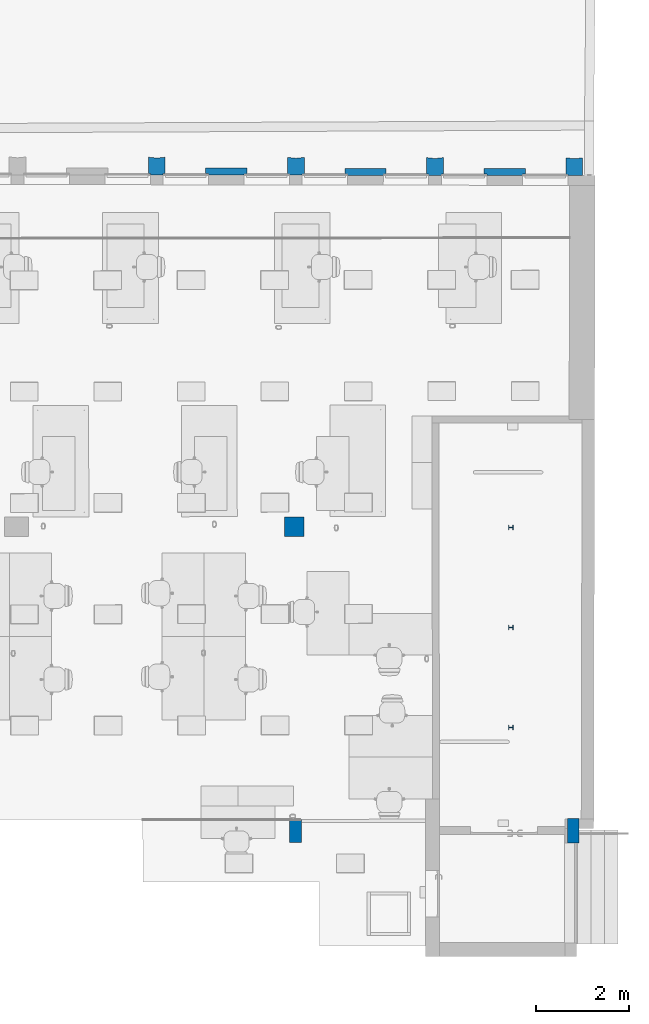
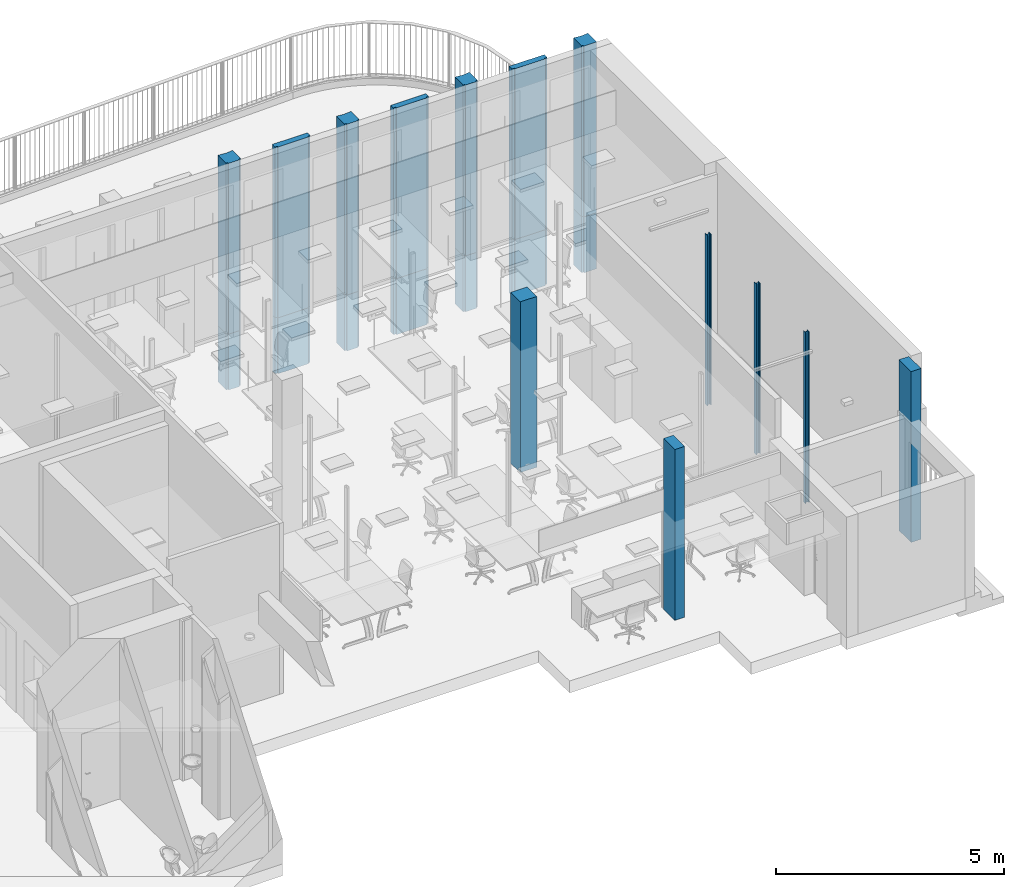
# One storey, part 4 of 128: 20 columns.
"""IFC2X3 building model written with IfcOpenShell, lengths in metres."""

from ifc_helpers import new_model, entity, si_unit, converted_unit, derived_unit, direction, frame, frame_2d, origin, place, context, subcontext, project, spatial, polyline, rectangle, i_section, outline, extrude, source, transform, mapped, material, type_object, type_shapes, element, save


model = new_model("IFC2X3")

# Units and contexts
model_context = context("Model", 3, precision=1e-05, world=origin(), true_north=direction((6.123031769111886e-17, 1.0)))
body_context = subcontext(model_context, "Body", "Model", "MODEL_VIEW")
ifc_project = project(units=[si_unit("LENGTHUNIT", "METRE"), si_unit("AREAUNIT", "SQUARE_METRE"), converted_unit("PLANEANGLEUNIT", "DEGREE", entity("IfcPlaneAngleMeasure", 0.017453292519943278), si_unit("PLANEANGLEUNIT", "RADIAN"), dimensions=[0, 0, 0, 0, 0, 0, 0]), derived_unit("THERMALTRANSMITTANCEUNIT", [(si_unit("MASSUNIT", "GRAM", prefix="KILO"), 1), (si_unit("THERMODYNAMICTEMPERATUREUNIT", "KELVIN"), -1), (si_unit("TIMEUNIT", "SECOND"), -3)])], contexts=[model_context])

# Site, building, storey
site_placement = place(None, origin())
site = spatial("IfcSite", under=ifc_project, at=site_placement, Name="Default", CompositionType="ELEMENT")
building_placement = place(site_placement, origin())
building = spatial("IfcBuilding", under=site, at=building_placement, CompositionType="ELEMENT")
storey_placement = place(building_placement, origin())
storey = spatial("IfcBuildingStorey", under=building, at=storey_placement, Name="00_RDC CAF", CompositionType="ELEMENT", Elevation=2.4982504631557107e-13)

# Columns
ifc_material_1 = material(Name="STR - Beton")
column_type_1 = type_object("IfcColumnType", Name="Po_Béton_Creusé _Bord:365mm x 385mm", PredefinedType="COLUMN", material=ifc_material_1)
shared_shape_1 = source(origin(), body_context, "Body", "SweptSolid", [
    extrude(outline(polyline([(-0.2435821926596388, 0.18887469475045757), (-0.20164150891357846, -0.19383404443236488), (0.11565882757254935, -0.15906140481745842), (0.11239072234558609, -0.1292399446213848), (0.15791815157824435, -0.12425063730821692), (0.11924557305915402, 0.22863664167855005), (-0.059989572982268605, 0.18887469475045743), (-0.2435821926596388, 0.18887469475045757)])), frame((48.71044179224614, 144.2732816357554, 0.0), z_axis=(0.0, 0.0, -1.0), x_axis=(-0.9942187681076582, -0.10737337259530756, 0.0)), (0.0, 0.0, -1.0), 4.578000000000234),
])
type_shapes(column_type_1, [shared_shape_1])
column_1_placement = place(storey_placement, origin())
element("IfcColumn", 1, at=column_1_placement, inside=storey, type_object=column_type_1, material=ifc_material_1, Name="Po_Béton_Creusé _Bord:365mm x 385mm", ObjectType="Po_Béton_Creusé _Bord:365mm x 385mm", context=body_context, shape_type="MappedRepresentation", body=[
    mapped(shared_shape_1, transform((0.0, 0.0, 0.0), scale=1.0)),
])
column_type_2 = type_object("IfcColumnType", Name="Po_Béton_Creusé_Courant:365mm x 385mm", PredefinedType="COLUMN", material=ifc_material_1)
shared_shape_2 = source(origin(), body_context, "Body", "SweptSolid", [
    extrude(outline(polyline([(-0.1824999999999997, 0.10944444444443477), (-0.1825000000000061, -0.24555555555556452), (0.0, -0.22555555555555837), (0.18249999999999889, -0.24555555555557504), (0.18249999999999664, 0.10944444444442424), (0.13669999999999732, 0.10944444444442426), (0.13670000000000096, 0.1394444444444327), (-0.13669999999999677, 0.13944444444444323), (-0.13670000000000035, 0.10944444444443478), (-0.1824999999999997, 0.10944444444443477)])), frame((45.74945634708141, 144.24666848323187, 0.0), z_axis=(0.0, 0.0, -1.0), x_axis=(0.9999987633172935, -0.0015726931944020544, 0.0)), (0.0, 0.0, -1.0), 4.578000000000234),
])
type_shapes(column_type_2, [shared_shape_2])
column_2_placement = place(storey_placement, origin())
element("IfcColumn", 2, at=column_2_placement, inside=storey, type_object=column_type_2, material=ifc_material_1, Name="Po_Béton_Creusé_Courant:365mm x 385mm", ObjectType="Po_Béton_Creusé_Courant:365mm x 385mm", context=body_context, shape_type="MappedRepresentation", body=[
    mapped(shared_shape_2, transform((0.0, 0.0, 0.0), scale=1.0)),
])
column_type_3 = type_object("IfcColumnType", Name="Po_Béton_Creusé_Courant:365mm x 385mm", PredefinedType="COLUMN", material=ifc_material_1)
shared_shape_3 = source(origin(), body_context, "Body", "SweptSolid", [
    extrude(outline(polyline([(-0.1824999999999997, 0.10944444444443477), (-0.1825000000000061, -0.24555555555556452), (0.0, -0.22555555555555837), (0.18249999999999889, -0.24555555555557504), (0.18249999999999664, 0.10944444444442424), (0.13669999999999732, 0.10944444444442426), (0.13670000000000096, 0.1394444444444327), (-0.13669999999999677, 0.13944444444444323), (-0.13670000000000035, 0.10944444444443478), (-0.1824999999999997, 0.10944444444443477)])), frame((42.74946298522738, 144.25138655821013, 0.0), z_axis=(0.0, 0.0, -1.0), x_axis=(0.9999987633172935, -0.0015726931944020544, 0.0)), (0.0, 0.0, -1.0), 4.578000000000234),
])
type_shapes(column_type_3, [shared_shape_3])
column_3_placement = place(storey_placement, origin())
element("IfcColumn", 3, at=column_3_placement, inside=storey, type_object=column_type_3, material=ifc_material_1, Name="Po_Béton_Creusé_Courant:365mm x 385mm", ObjectType="Po_Béton_Creusé_Courant:365mm x 385mm", context=body_context, shape_type="MappedRepresentation", body=[
    mapped(shared_shape_3, transform((0.0, 0.0, 0.0), scale=1.0)),
])
column_type_4 = type_object("IfcColumnType", Name="Po_Béton_Creusé_Courant:365mm x 385mm", PredefinedType="COLUMN", material=ifc_material_1)
shared_shape_4 = source(origin(), body_context, "Body", "SweptSolid", [
    extrude(outline(polyline([(-0.18249999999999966, 0.10944444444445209), (-0.18250000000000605, -0.2455555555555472), (0.0, -0.22555555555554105), (0.1824999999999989, -0.24555555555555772), (0.1824999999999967, 0.10944444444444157), (0.13669999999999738, 0.10944444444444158), (0.13670000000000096, 0.13944444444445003), (-0.1366999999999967, 0.13944444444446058), (-0.13670000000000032, 0.1094444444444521), (-0.18249999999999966, 0.10944444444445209)])), frame((39.74946962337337, 144.25610463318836, 0.0), z_axis=(0.0, 0.0, -1.0), x_axis=(0.9999987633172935, -0.0015726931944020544, 0.0)), (0.0, 0.0, -1.0), 4.578000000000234),
])
type_shapes(column_type_4, [shared_shape_4])
column_4_placement = place(storey_placement, origin())
element("IfcColumn", 4, at=column_4_placement, inside=storey, type_object=column_type_4, material=ifc_material_1, Name="Po_Béton_Creusé_Courant:365mm x 385mm", ObjectType="Po_Béton_Creusé_Courant:365mm x 385mm", context=body_context, shape_type="MappedRepresentation", body=[
    mapped(shared_shape_4, transform((0.0, 0.0, 0.0), scale=1.0)),
])
ifc_material_2 = material(Name="<Unnamed>")
column_type_5 = type_object("IfcColumnType", Name="Po_Béton_T:365mm x 385mm", PredefinedType="COLUMN", material=ifc_material_2)
shared_shape_5 = source(origin(), body_context, "Body", "SweptSolid", [
    extrude(outline(polyline([(-0.44499999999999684, 0.0225000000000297), (-0.4450000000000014, -0.09749999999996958), (0.4449999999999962, -0.0975000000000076), (0.4450000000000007, 0.022499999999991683), (0.38320000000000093, 0.022499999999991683), (0.38320000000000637, 0.05249999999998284), (-0.3831999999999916, 0.05250000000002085), (-0.383199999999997, 0.0225000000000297), (-0.44499999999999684, 0.0225000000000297)])), frame((41.24920515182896, 144.16680145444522, 0.0), z_axis=(0.0, 0.0, -1.0), x_axis=(0.9999987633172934, -0.001572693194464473, 0.0)), (0.0, 0.0, -1.0), 4.578000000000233),
])
type_shapes(column_type_5, [shared_shape_5])
column_5_placement = place(storey_placement, origin())
element("IfcColumn", 5, at=column_5_placement, inside=storey, type_object=column_type_5, material=ifc_material_2, Name="Po_Béton_T:365mm x 385mm", ObjectType="Po_Béton_T:365mm x 385mm", context=body_context, shape_type="MappedRepresentation", body=[
    mapped(shared_shape_5, transform((0.0, 0.0, 0.0), scale=1.0)),
])
column_type_6 = type_object("IfcColumnType", Name="Po_Béton_T:365mm x 385mm", PredefinedType="COLUMN", material=ifc_material_2)
shared_shape_6 = source(origin(), body_context, "Body", "SweptSolid", [
    extrude(outline(polyline([(-0.4449999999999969, 0.022499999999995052), (-0.44500000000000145, -0.09750000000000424), (0.4449999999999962, -0.09750000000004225), (0.4450000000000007, 0.02249999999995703), (0.3832000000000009, 0.02249999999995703), (0.3832000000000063, 0.052499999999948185), (-0.3831999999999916, 0.0524999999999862), (-0.3831999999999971, 0.022499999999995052), (-0.4449999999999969, 0.022499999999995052)])), frame((44.249198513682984, 144.16208337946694, 0.0), z_axis=(0.0, 0.0, -1.0), x_axis=(0.9999987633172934, -0.001572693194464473, 0.0)), (0.0, 0.0, -1.0), 4.578000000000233),
])
type_shapes(column_type_6, [shared_shape_6])
column_6_placement = place(storey_placement, origin())
element("IfcColumn", 6, at=column_6_placement, inside=storey, type_object=column_type_6, material=ifc_material_2, Name="Po_Béton_T:365mm x 385mm", ObjectType="Po_Béton_T:365mm x 385mm", context=body_context, shape_type="MappedRepresentation", body=[
    mapped(shared_shape_6, transform((0.0, 0.0, 0.0), scale=1.0)),
])
column_type_7 = type_object("IfcColumnType", Name="Po_Béton_T:365mm x 385mm", PredefinedType="COLUMN", material=ifc_material_2)
shared_shape_7 = source(origin(), body_context, "Body", "SweptSolid", [
    extrude(outline(polyline([(-0.44499999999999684, 0.0225000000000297), (-0.4450000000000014, -0.09749999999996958), (0.4449999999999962, -0.0975000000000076), (0.4450000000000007, 0.022499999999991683), (0.38320000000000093, 0.022499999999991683), (0.38320000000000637, 0.05249999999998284), (-0.3831999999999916, 0.05250000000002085), (-0.383199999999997, 0.0225000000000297), (-0.44499999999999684, 0.0225000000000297)])), frame((47.249191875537, 144.15736530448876, 0.0), z_axis=(0.0, 0.0, -1.0), x_axis=(0.9999987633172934, -0.001572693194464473, 0.0)), (0.0, 0.0, -1.0), 4.578000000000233),
])
type_shapes(column_type_7, [shared_shape_7])
column_7_placement = place(storey_placement, origin())
element("IfcColumn", 7, at=column_7_placement, inside=storey, type_object=column_type_7, material=ifc_material_2, Name="Po_Béton_T:365mm x 385mm", ObjectType="Po_Béton_T:365mm x 385mm", context=body_context, shape_type="MappedRepresentation", body=[
    mapped(shared_shape_7, transform((0.0, 0.0, 0.0), scale=1.0)),
])
ifc_material_3 = material(Name="STR - Acier")
column_type_8 = type_object("IfcColumnType", Name="Poteau HE-B:HEB100", PredefinedType="COLUMN", material=ifc_material_3)
shared_shape_8 = source(origin(), body_context, "Body", "SweptSolid", [
    extrude(i_section(OverallWidth=0.1, OverallDepth=0.09999999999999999, WebThickness=0.005999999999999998, FlangeThickness=0.01000000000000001, FilletRadius=0.012, at=frame_2d((0.0, 6.938893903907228e-18), x_axis=(1.0, 0.0))), frame((0.0, 0.0, 0.0), z_axis=(0.0, 0.0, 1.0), x_axis=(-1.0, 0.0, 0.0)), (0.0, 0.0, 1.0), 4.578000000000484),
])
type_shapes(column_type_8, [shared_shape_8])
for number, where, z_axis, x_axis in (
    (8, (47.38209885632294, 136.51848300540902, 0.0), (0.0, 0.0, 1.0), (0.0, 1.0, 0.0)),
    (9, (47.38209885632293, 134.36298300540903, 0.0), (0.0, 0.0, 1.0), (0.0, 1.0, 0.0)),
    (10, (47.38209885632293, 132.20748300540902, 0.0), (0.0, 0.0, 1.0), (0.0, 1.0, 0.0)),
):
    element("IfcColumn", number, at=place(storey_placement, frame(where, z_axis=z_axis, x_axis=x_axis)), inside=storey, type_object=column_type_8, material=ifc_material_3, Name="Poteau HE-B:HEB100", ObjectType="Poteau HE-B:HEB100", context=body_context, shape_type="MappedRepresentation", body=[
        mapped(shared_shape_8, transform((0.0, 0.0, 0.0), scale=1.0)),
    ])
column_type_9 = type_object("IfcColumnType", Name="Po_Beton_Rectangulaire:Po_Beton_Rectangulaire_420x420mm", PredefinedType="COLUMN", material=ifc_material_1)
shared_shape_9 = source(origin(), body_context, "Body", "SweptSolid", [
    extrude(rectangle(XDim=0.4200000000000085, YDim=0.4199999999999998, at=frame_2d((-1.7319479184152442e-14, -4.3298697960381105e-15), x_axis=(1.0, 0.0))), frame((42.71471611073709, 136.532483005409, 0.0), z_axis=(0.0, 0.0, 1.0), x_axis=(0.0, -1.0, 0.0)), (0.0, 0.0, 1.0), 4.578000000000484),
])
type_shapes(column_type_9, [shared_shape_9])
column_8_placement = place(storey_placement, origin())
element("IfcColumn", 11, at=column_8_placement, inside=storey, type_object=column_type_9, material=ifc_material_1, Name="Po_Beton_Rectangulaire:Po_Beton_Rectangulaire_420x420mm", ObjectType="Po_Beton_Rectangulaire:Po_Beton_Rectangulaire_420x420mm", context=body_context, shape_type="MappedRepresentation", body=[
    mapped(shared_shape_9, transform((0.0, 0.0, 0.0), scale=1.0)),
])
column_type_10 = type_object("IfcColumnType", Name="Po_Beton_Rectangulaire:Po_Beton_Rectangulaire_500x250mm", PredefinedType="COLUMN", material=ifc_material_1)
shared_shape_10 = source(origin(), body_context, "Body", "SweptSolid", [
    extrude(rectangle(XDim=0.25000000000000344, YDim=0.49999999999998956, at=frame_2d((-8.673617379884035e-15, -8.659739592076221e-15), x_axis=(1.0, 0.0))), frame((42.74098436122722, 129.97802029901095, 0.0), z_axis=(0.0, 0.0, 1.0), x_axis=(0.9999994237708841, 0.0010735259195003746, 0.0)), (0.0, 0.0, 1.0), 4.578000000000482),
])
type_shapes(column_type_10, [shared_shape_10])
column_9_placement = place(storey_placement, origin())
element("IfcColumn", 12, at=column_9_placement, inside=storey, type_object=column_type_10, material=ifc_material_1, Name="Po_Beton_Rectangulaire:Po_Beton_Rectangulaire_500x250mm", ObjectType="Po_Beton_Rectangulaire:Po_Beton_Rectangulaire_500x250mm", context=body_context, shape_type="MappedRepresentation", body=[
    mapped(shared_shape_10, transform((0.0, 0.0, 0.0), scale=1.0)),
])
column_type_11 = type_object("IfcColumnType", Name="Po_Beton_Rectangulaire:Po_Beton_Rectangulaire_530x250mm", PredefinedType="COLUMN", material=ifc_material_1)
shared_shape_11 = source(origin(), body_context, "Body", "SweptSolid", [
    extrude(rectangle(XDim=0.2500000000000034, YDim=0.53, at=frame_2d((2.67841304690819e-15, -0.07376776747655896), x_axis=(1.0, 0.0))), frame((48.7237861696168, 130.05975102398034, 0.0), z_axis=(0.0, 0.0, 1.0), x_axis=(0.9999994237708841, 0.0010735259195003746, 0.0)), (0.0, 0.0, 1.0), 4.578000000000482),
])
type_shapes(column_type_11, [shared_shape_11])
column_10_placement = place(storey_placement, origin())
element("IfcColumn", 13, at=column_10_placement, inside=storey, type_object=column_type_11, material=ifc_material_1, Name="Po_Beton_Rectangulaire:Po_Beton_Rectangulaire_530x250mm", ObjectType="Po_Beton_Rectangulaire:Po_Beton_Rectangulaire_530x250mm", context=body_context, shape_type="MappedRepresentation", body=[
    mapped(shared_shape_11, transform((0.0, 0.0, 0.0), scale=1.0)),
])
column_type_12 = type_object("IfcColumnType", Name="Po_Béton_Creusé _Bord:365mm x 385mm", PredefinedType="COLUMN", material=ifc_material_1)
shared_shape_12 = source(origin(), body_context, "Body", "SweptSolid", [
    extrude(outline(polyline([(-0.2435821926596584, 0.1888746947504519), (-0.20164150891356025, -0.19383404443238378), (0.11565882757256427, -0.15906140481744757), (0.1123907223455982, -0.12923994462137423), (0.157918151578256, -0.1242506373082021), (0.11924557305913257, 0.2286366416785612), (-0.059989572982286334, 0.1888746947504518), (-0.2435821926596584, 0.1888746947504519)])), frame((48.71044179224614, 144.2732816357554, -1.4999999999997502), z_axis=(0.0, 0.0, -1.0), x_axis=(-0.9942187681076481, -0.10737337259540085, 0.0)), (0.0, 0.0, -1.0), 1.4999999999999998),
])
type_shapes(column_type_12, [shared_shape_12])
column_11_placement = place(storey_placement, origin())
element("IfcColumn", 14, at=column_11_placement, inside=storey, type_object=column_type_12, material=ifc_material_1, Name="Po_Béton_Creusé _Bord:365mm x 385mm", ObjectType="Po_Béton_Creusé _Bord:365mm x 385mm", context=body_context, shape_type="MappedRepresentation", body=[
    mapped(shared_shape_12, transform((0.0, 0.0, 0.0), scale=1.0)),
])
column_type_13 = type_object("IfcColumnType", Name="Po_Béton_Creusé_Courant:365mm x 385mm", PredefinedType="COLUMN", material=ifc_material_1)
shared_shape_13 = source(origin(), body_context, "Body", "SweptSolid", [
    extrude(outline(polyline([(-0.1824999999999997, 0.10944444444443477), (-0.1825000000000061, -0.24555555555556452), (0.0, -0.22555555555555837), (0.1824999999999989, -0.24555555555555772), (0.18249999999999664, 0.10944444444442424), (0.13669999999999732, 0.10944444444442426), (0.13670000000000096, 0.1394444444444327), (-0.13669999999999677, 0.13944444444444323), (-0.13670000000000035, 0.10944444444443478), (-0.1824999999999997, 0.10944444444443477)])), frame((45.74945634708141, 144.24666848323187, -1.4999999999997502), z_axis=(0.0, 0.0, -1.0), x_axis=(0.9999987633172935, -0.0015726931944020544, 0.0)), (0.0, 0.0, -1.0), 1.4999999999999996),
])
type_shapes(column_type_13, [shared_shape_13])
column_12_placement = place(storey_placement, origin())
element("IfcColumn", 15, at=column_12_placement, inside=storey, type_object=column_type_13, material=ifc_material_1, Name="Po_Béton_Creusé_Courant:365mm x 385mm", ObjectType="Po_Béton_Creusé_Courant:365mm x 385mm", context=body_context, shape_type="MappedRepresentation", body=[
    mapped(shared_shape_13, transform((0.0, 0.0, 0.0), scale=1.0)),
])
column_type_14 = type_object("IfcColumnType", Name="Po_Béton_Creusé_Courant:365mm x 385mm", PredefinedType="COLUMN", material=ifc_material_1)
shared_shape_14 = source(origin(), body_context, "Body", "SweptSolid", [
    extrude(outline(polyline([(-0.1824999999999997, 0.10944444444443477), (-0.1825000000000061, -0.24555555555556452), (0.0, -0.22555555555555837), (0.18249999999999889, -0.24555555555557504), (0.18249999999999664, 0.10944444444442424), (0.13669999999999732, 0.10944444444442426), (0.13670000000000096, 0.1394444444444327), (-0.13669999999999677, 0.13944444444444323), (-0.13670000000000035, 0.10944444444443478), (-0.1824999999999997, 0.10944444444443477)])), frame((42.74946298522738, 144.25138655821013, -1.4999999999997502), z_axis=(0.0, 0.0, -1.0), x_axis=(0.9999987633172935, -0.0015726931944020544, 0.0)), (0.0, 0.0, -1.0), 1.4999999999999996),
])
type_shapes(column_type_14, [shared_shape_14])
column_13_placement = place(storey_placement, origin())
element("IfcColumn", 16, at=column_13_placement, inside=storey, type_object=column_type_14, material=ifc_material_1, Name="Po_Béton_Creusé_Courant:365mm x 385mm", ObjectType="Po_Béton_Creusé_Courant:365mm x 385mm", context=body_context, shape_type="MappedRepresentation", body=[
    mapped(shared_shape_14, transform((0.0, 0.0, 0.0), scale=1.0)),
])
column_type_15 = type_object("IfcColumnType", Name="Po_Béton_Creusé_Courant:365mm x 385mm", PredefinedType="COLUMN", material=ifc_material_1)
shared_shape_15 = source(origin(), body_context, "Body", "SweptSolid", [
    extrude(outline(polyline([(-0.18249999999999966, 0.10944444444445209), (-0.18250000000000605, -0.2455555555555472), (0.0, -0.22555555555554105), (0.1824999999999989, -0.2455555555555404), (0.1824999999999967, 0.10944444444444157), (0.13669999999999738, 0.10944444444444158), (0.13670000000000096, 0.13944444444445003), (-0.1366999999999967, 0.13944444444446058), (-0.13670000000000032, 0.1094444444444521), (-0.18249999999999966, 0.10944444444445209)])), frame((39.74946962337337, 144.25610463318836, -1.4999999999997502), z_axis=(0.0, 0.0, -1.0), x_axis=(0.9999987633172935, -0.0015726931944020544, 0.0)), (0.0, 0.0, -1.0), 1.4999999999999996),
])
type_shapes(column_type_15, [shared_shape_15])
column_14_placement = place(storey_placement, origin())
element("IfcColumn", 17, at=column_14_placement, inside=storey, type_object=column_type_15, material=ifc_material_1, Name="Po_Béton_Creusé_Courant:365mm x 385mm", ObjectType="Po_Béton_Creusé_Courant:365mm x 385mm", context=body_context, shape_type="MappedRepresentation", body=[
    mapped(shared_shape_15, transform((0.0, 0.0, 0.0), scale=1.0)),
])
column_type_16 = type_object("IfcColumnType", Name="Po_Béton_T:365mm x 385mm", PredefinedType="COLUMN", material=ifc_material_2)
shared_shape_16 = source(origin(), body_context, "Body", "SweptSolid", [
    extrude(outline(polyline([(-0.44499999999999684, 0.0225000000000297), (-0.4450000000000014, -0.09749999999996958), (0.4449999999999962, -0.09750000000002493), (0.4450000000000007, 0.022499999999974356), (0.38320000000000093, 0.022499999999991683), (0.38320000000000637, 0.05249999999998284), (-0.3831999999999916, 0.05250000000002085), (-0.383199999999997, 0.0225000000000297), (-0.44499999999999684, 0.0225000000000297)])), frame((41.24920515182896, 144.16680145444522, -1.4999999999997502), z_axis=(0.0, 0.0, -1.0), x_axis=(0.9999987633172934, -0.001572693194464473, 0.0)), (0.0, 0.0, -1.0), 1.4999999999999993),
])
type_shapes(column_type_16, [shared_shape_16])
column_15_placement = place(storey_placement, origin())
element("IfcColumn", 18, at=column_15_placement, inside=storey, type_object=column_type_16, material=ifc_material_2, Name="Po_Béton_T:365mm x 385mm", ObjectType="Po_Béton_T:365mm x 385mm", context=body_context, shape_type="MappedRepresentation", body=[
    mapped(shared_shape_16, transform((0.0, 0.0, 0.0), scale=1.0)),
])
column_type_17 = type_object("IfcColumnType", Name="Po_Béton_T:365mm x 385mm", PredefinedType="COLUMN", material=ifc_material_2)
shared_shape_17 = source(origin(), body_context, "Body", "SweptSolid", [
    extrude(outline(polyline([(-0.44499999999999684, 0.022500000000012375), (-0.4450000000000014, -0.0974999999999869), (0.4449999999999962, -0.09750000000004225), (0.4450000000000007, 0.02249999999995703), (0.3832000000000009, 0.022499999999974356), (0.38320000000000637, 0.05249999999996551), (-0.3831999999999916, 0.05250000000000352), (-0.383199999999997, 0.022500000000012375), (-0.44499999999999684, 0.022500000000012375)])), frame((44.249198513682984, 144.16208337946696, -1.4999999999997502), z_axis=(0.0, 0.0, -1.0), x_axis=(0.9999987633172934, -0.001572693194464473, 0.0)), (0.0, 0.0, -1.0), 1.4999999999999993),
])
type_shapes(column_type_17, [shared_shape_17])
column_16_placement = place(storey_placement, origin())
element("IfcColumn", 19, at=column_16_placement, inside=storey, type_object=column_type_17, material=ifc_material_2, Name="Po_Béton_T:365mm x 385mm", ObjectType="Po_Béton_T:365mm x 385mm", context=body_context, shape_type="MappedRepresentation", body=[
    mapped(shared_shape_17, transform((0.0, 0.0, 0.0), scale=1.0)),
])
column_type_18 = type_object("IfcColumnType", Name="Po_Béton_T:365mm x 385mm", PredefinedType="COLUMN", material=ifc_material_2)
shared_shape_18 = source(origin(), body_context, "Body", "SweptSolid", [
    extrude(outline(polyline([(-0.44499999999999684, 0.0225000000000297), (-0.4450000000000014, -0.09749999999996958), (0.4449999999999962, -0.09750000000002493), (0.4450000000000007, 0.022499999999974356), (0.38320000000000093, 0.022499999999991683), (0.38320000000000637, 0.05249999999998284), (-0.3831999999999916, 0.05250000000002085), (-0.383199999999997, 0.0225000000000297), (-0.44499999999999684, 0.0225000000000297)])), frame((47.249191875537, 144.15736530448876, -1.4999999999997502), z_axis=(0.0, 0.0, -1.0), x_axis=(0.9999987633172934, -0.001572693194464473, 0.0)), (0.0, 0.0, -1.0), 1.4999999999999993),
])
type_shapes(column_type_18, [shared_shape_18])
column_17_placement = place(storey_placement, origin())
element("IfcColumn", 20, at=column_17_placement, inside=storey, type_object=column_type_18, material=ifc_material_2, Name="Po_Béton_T:365mm x 385mm", ObjectType="Po_Béton_T:365mm x 385mm", context=body_context, shape_type="MappedRepresentation", body=[
    mapped(shared_shape_18, transform((0.0, 0.0, 0.0), scale=1.0)),
])

save(model, "model.ifc")
